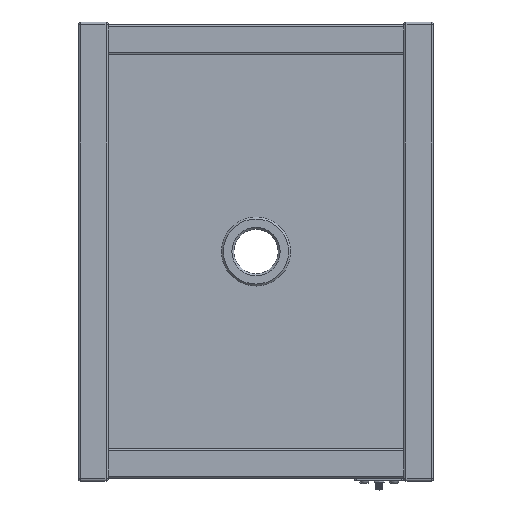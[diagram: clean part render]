
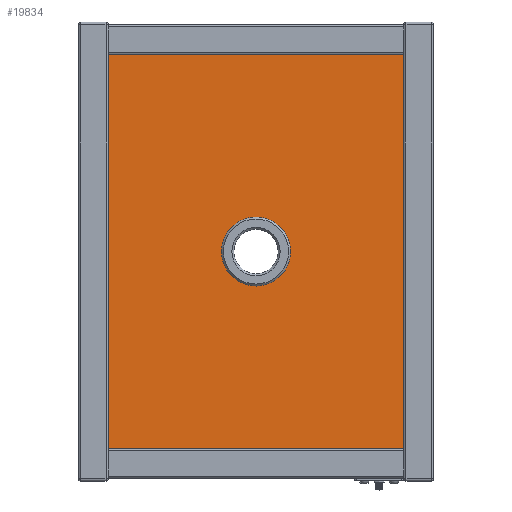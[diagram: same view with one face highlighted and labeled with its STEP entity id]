
A CAD part, top view. The second image highlights one B-rep face of the part: STEP entity #19834.
In plain terms, the highlighted planar face has unit normal (0, 0, 1).
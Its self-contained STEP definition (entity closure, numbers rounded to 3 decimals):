
#128 = CIRCLE ( 'NONE', #4933, 35. ) ;
#396 = VERTEX_POINT ( 'NONE', #4229 ) ;
#1649 = CARTESIAN_POINT ( 'NONE',  ( 0., -35., 0. ) ) ;
#1764 = ORIENTED_EDGE ( 'NONE', *, *, #25901, .T. ) ;
#1769 = DIRECTION ( 'NONE',  ( 0., 0., 1. ) ) ;
#1900 = DIRECTION ( 'NONE',  ( 0., -1., 0. ) ) ;
#2205 = DIRECTION ( 'NONE',  ( 1., 0., 0. ) ) ;
#2527 = CARTESIAN_POINT ( 'NONE',  ( 150., -200., 0. ) ) ;
#3644 = VERTEX_POINT ( 'NONE', #8591 ) ;
#4229 = CARTESIAN_POINT ( 'NONE',  ( 150., 200., 0. ) ) ;
#4933 = AXIS2_PLACEMENT_3D ( 'NONE', #21869, #1769, #24237 ) ;
#5125 = PLANE ( 'NONE',  #14456 ) ;
#5167 = EDGE_LOOP ( 'NONE', ( #1764, #8618, #28318, #21496 ) ) ;
#5621 = VECTOR ( 'NONE', #26977, 1000. ) ;
#7369 = DIRECTION ( 'NONE',  ( 0., -1., 0. ) ) ;
#7964 = EDGE_CURVE ( 'NONE', #8194, #3644, #21412, .T. ) ;
#8194 = VERTEX_POINT ( 'NONE', #25536 ) ;
#8591 = CARTESIAN_POINT ( 'NONE',  ( 150., -200., 0. ) ) ;
#8618 = ORIENTED_EDGE ( 'NONE', *, *, #7964, .T. ) ;
#8899 = CARTESIAN_POINT ( 'NONE',  ( -150., -200., 0. ) ) ;
#9335 = LINE ( 'NONE', #2527, #18522 ) ;
#9378 = VERTEX_POINT ( 'NONE', #1649 ) ;
#9518 = LINE ( 'NONE', #19845, #5621 ) ;
#14456 = AXIS2_PLACEMENT_3D ( 'NONE', #18678, #20997, #7369 ) ;
#14941 = LINE ( 'NONE', #8899, #17050 ) ;
#15832 = VERTEX_POINT ( 'NONE', #18221 ) ;
#16472 = EDGE_CURVE ( 'NONE', #3644, #396, #9335, .T. ) ;
#16556 = FACE_OUTER_BOUND ( 'NONE', #5167, .T. ) ;
#17050 = VECTOR ( 'NONE', #1900, 1000. ) ;
#17271 = EDGE_CURVE ( 'NONE', #9378, #9378, #128, .T. ) ;
#18221 = CARTESIAN_POINT ( 'NONE',  ( -150., 200., 0. ) ) ;
#18317 = DIRECTION ( 'NONE',  ( 0., 1., 0. ) ) ;
#18522 = VECTOR ( 'NONE', #18317, 1000. ) ;
#18678 = CARTESIAN_POINT ( 'NONE',  ( 0., 0., 0. ) ) ;
#19834 = ADVANCED_FACE ( 'NONE', ( #21914, #16556 ), #5125, .T. ) ;
#19845 = CARTESIAN_POINT ( 'NONE',  ( 150., 200., 0. ) ) ;
#20997 = DIRECTION ( 'NONE',  ( 0., 0., 1. ) ) ;
#21412 = LINE ( 'NONE', #22191, #24595 ) ;
#21496 = ORIENTED_EDGE ( 'NONE', *, *, #27361, .T. ) ;
#21869 = CARTESIAN_POINT ( 'NONE',  ( 0., 0., 0. ) ) ;
#21914 = FACE_BOUND ( 'NONE', #26433, .T. ) ;
#22191 = CARTESIAN_POINT ( 'NONE',  ( 150., -200., 0. ) ) ;
#24237 = DIRECTION ( 'NONE',  ( 0., -1., 0. ) ) ;
#24595 = VECTOR ( 'NONE', #2205, 1000. ) ;
#25536 = CARTESIAN_POINT ( 'NONE',  ( -150., -200., 0. ) ) ;
#25901 = EDGE_CURVE ( 'NONE', #15832, #8194, #14941, .T. ) ;
#26433 = EDGE_LOOP ( 'NONE', ( #26906 ) ) ;
#26906 = ORIENTED_EDGE ( 'NONE', *, *, #17271, .F. ) ;
#26977 = DIRECTION ( 'NONE',  ( -1., 0., 0. ) ) ;
#27361 = EDGE_CURVE ( 'NONE', #396, #15832, #9518, .T. ) ;
#28318 = ORIENTED_EDGE ( 'NONE', *, *, #16472, .T. ) ;
